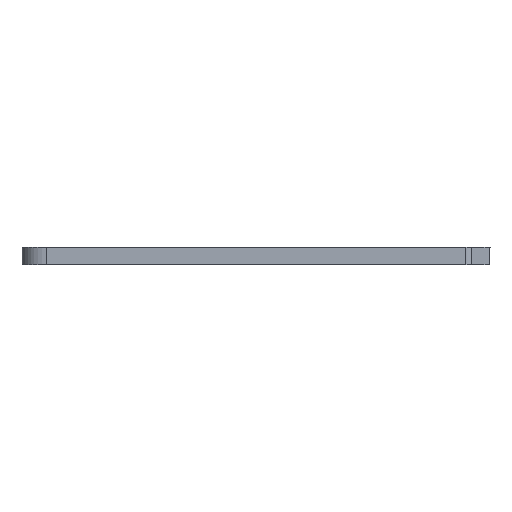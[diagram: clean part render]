
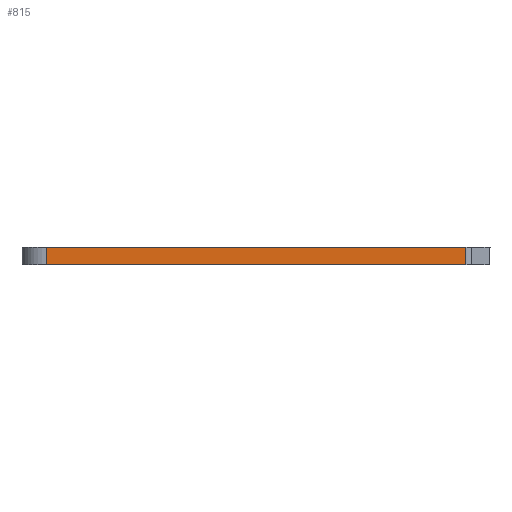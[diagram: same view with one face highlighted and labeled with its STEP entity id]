
A CAD part, front view. The second image highlights one B-rep face of the part: STEP entity #815.
In plain terms, the highlighted planar face has unit normal (0, -1, 0).
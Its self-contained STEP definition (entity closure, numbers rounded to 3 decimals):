
#45=CARTESIAN_POINT('',(26.509,-38.7,51.32));
#46=VERTEX_POINT('',#45);
#54=CARTESIAN_POINT('',(26.509,-38.7,49.12));
#55=VERTEX_POINT('',#54);
#56=CARTESIAN_POINT('',(26.509,-38.7,51.32));
#57=DIRECTION('',(0.,0.,-1.));
#58=VECTOR('',#57,2.2);
#59=LINE('',#56,#58);
#60=EDGE_CURVE('',#46,#55,#59,.T.);
#87=CARTESIAN_POINT('',(-25.218,-38.7,49.12));
#88=VERTEX_POINT('',#87);
#96=CARTESIAN_POINT('',(-25.218,-38.7,51.32));
#97=VERTEX_POINT('',#96);
#98=CARTESIAN_POINT('',(-25.218,-38.7,49.12));
#99=DIRECTION('',(0.,0.,1.));
#100=VECTOR('',#99,2.2);
#101=LINE('',#98,#100);
#102=EDGE_CURVE('',#88,#97,#101,.T.);
#794=CARTESIAN_POINT('',(0.645,-38.7,50.22));
#795=DIRECTION('',(0.,0.,-1.));
#796=DIRECTION('',(0.,-1.,0.));
#797=AXIS2_PLACEMENT_3D('',#794,#796,#795);
#798=PLANE('',#797);
#799=ORIENTED_EDGE('',*,*,#60,.F.);
#800=CARTESIAN_POINT('',(26.509,-38.7,51.32));
#801=DIRECTION('',(-1.,0.,0.));
#802=VECTOR('',#801,51.727);
#803=LINE('',#800,#802);
#804=EDGE_CURVE('',#46,#97,#803,.T.);
#805=ORIENTED_EDGE('',*,*,#804,.T.);
#806=ORIENTED_EDGE('',*,*,#102,.F.);
#807=CARTESIAN_POINT('',(-25.218,-38.7,49.12));
#808=DIRECTION('',(1.,0.,0.));
#809=VECTOR('',#808,51.727);
#810=LINE('',#807,#809);
#811=EDGE_CURVE('',#88,#55,#810,.T.);
#812=ORIENTED_EDGE('',*,*,#811,.T.);
#813=EDGE_LOOP('',(#799,#805,#806,#812));
#814=FACE_OUTER_BOUND('',#813,.T.);
#815=ADVANCED_FACE('',(#814),#798,.T.);
